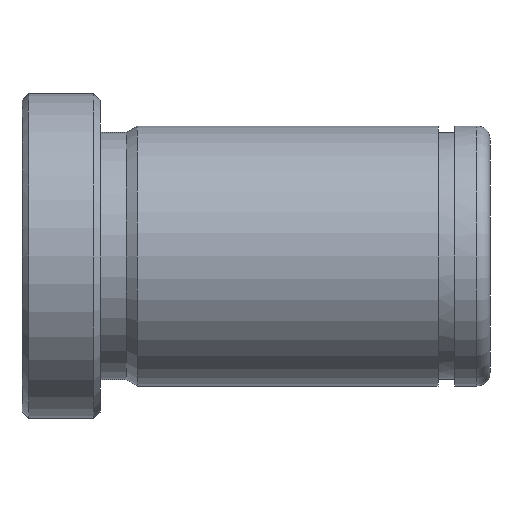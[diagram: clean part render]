
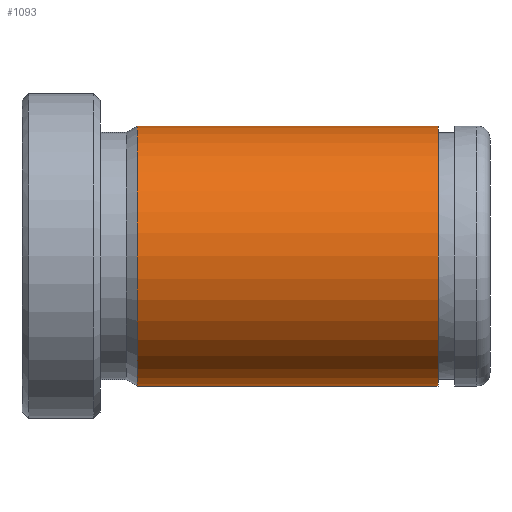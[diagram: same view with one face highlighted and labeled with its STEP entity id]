
A CAD part, front view. The second image highlights one B-rep face of the part: STEP entity #1093.
In plain terms, the highlighted cylindrical face has radius 10 mm (diameter 20 mm), a partial arc.
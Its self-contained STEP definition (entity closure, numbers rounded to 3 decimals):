
#877=CARTESIAN_POINT('Vertex',(8.866,0.,-10.)) ;
#884=CARTESIAN_POINT('Vertex',(8.866,0.,10.)) ;
#913=CARTESIAN_POINT('Axis2P3D Location',(8.866,0.,0.)) ;
#917=CARTESIAN_POINT('Vertex',(8.866,-10.,0.)) ;
#920=CARTESIAN_POINT('Axis2P3D Location',(8.866,0.,0.)) ;
#1033=CARTESIAN_POINT('Line Origine',(72.,0.,10.)) ;
#1037=CARTESIAN_POINT('Vertex',(32.,0.,10.)) ;
#1051=CARTESIAN_POINT('Vertex',(32.,0.,-10.)) ;
#1054=CARTESIAN_POINT('Line Origine',(72.,0.,-10.)) ;
#1068=CARTESIAN_POINT('Axis2P3D Location',(72.,0.,0.)) ;
#1073=CARTESIAN_POINT('Axis2P3D Location',(32.,0.,0.)) ;
#1077=CARTESIAN_POINT('Vertex',(32.,-10.,0.)) ;
#1080=CARTESIAN_POINT('Axis2P3D Location',(32.,0.,0.)) ;
#914=DIRECTION('Axis2P3D Direction',(1.,0.,-0.)) ;
#921=DIRECTION('Axis2P3D Direction',(1.,0.,-0.)) ;
#1034=DIRECTION('Vector Direction',(-1.,0.,0.)) ;
#1055=DIRECTION('Vector Direction',(-1.,0.,0.)) ;
#1069=DIRECTION('Axis2P3D Direction',(-1.,-0.,-0.)) ;
#1070=DIRECTION('Axis2P3D XDirection',(0.,0.,-1.)) ;
#1074=DIRECTION('Axis2P3D Direction',(-1.,-0.,-0.)) ;
#1081=DIRECTION('Axis2P3D Direction',(-1.,-0.,-0.)) ;
#915=AXIS2_PLACEMENT_3D('Circle Axis2P3D',#913,#914,$) ;
#922=AXIS2_PLACEMENT_3D('Circle Axis2P3D',#920,#921,$) ;
#1071=AXIS2_PLACEMENT_3D('Cylinder Axis2P3D',#1068,#1069,#1070) ;
#1075=AXIS2_PLACEMENT_3D('Circle Axis2P3D',#1073,#1074,$) ;
#1082=AXIS2_PLACEMENT_3D('Circle Axis2P3D',#1080,#1081,$) ;
#1086=ORIENTED_EDGE('',*,*,#1058,.T.) ;
#1087=ORIENTED_EDGE('',*,*,#1079,.F.) ;
#1088=ORIENTED_EDGE('',*,*,#1084,.F.) ;
#1089=ORIENTED_EDGE('',*,*,#1039,.T.) ;
#1090=ORIENTED_EDGE('',*,*,#924,.T.) ;
#1091=ORIENTED_EDGE('',*,*,#919,.T.) ;
#1035=VECTOR('Line Direction',#1034,1.) ;
#1056=VECTOR('Line Direction',#1055,1.) ;
#1093=ADVANCED_FACE('553-15X36',(#1092),#1072,.T.) ;
#916=CIRCLE('generated circle',#915,10.) ;
#923=CIRCLE('generated circle',#922,10.) ;
#1076=CIRCLE('generated circle',#1075,10.) ;
#1083=CIRCLE('generated circle',#1082,10.) ;
#1072=CYLINDRICAL_SURFACE('generated cylinder',#1071,10.) ;
#919=EDGE_CURVE('',#918,#878,#916,.T.) ;
#924=EDGE_CURVE('',#885,#918,#923,.T.) ;
#1039=EDGE_CURVE('',#1038,#885,#1036,.T.) ;
#1058=EDGE_CURVE('',#878,#1052,#1057,.F.) ;
#1079=EDGE_CURVE('',#1078,#1052,#1076,.F.) ;
#1084=EDGE_CURVE('',#1038,#1078,#1083,.F.) ;
#1085=EDGE_LOOP('',(#1086,#1087,#1088,#1089,#1090,#1091)) ;
#1092=FACE_OUTER_BOUND('',#1085,.T.) ;
#1036=LINE('Line',#1033,#1035) ;
#1057=LINE('Line',#1054,#1056) ;
#878=VERTEX_POINT('',#877) ;
#885=VERTEX_POINT('',#884) ;
#918=VERTEX_POINT('',#917) ;
#1038=VERTEX_POINT('',#1037) ;
#1052=VERTEX_POINT('',#1051) ;
#1078=VERTEX_POINT('',#1077) ;
